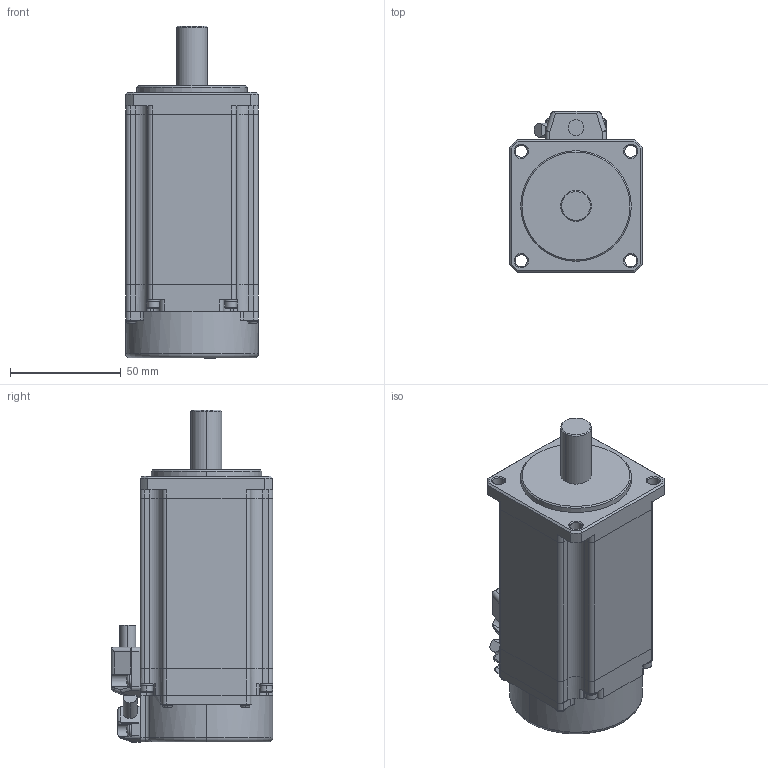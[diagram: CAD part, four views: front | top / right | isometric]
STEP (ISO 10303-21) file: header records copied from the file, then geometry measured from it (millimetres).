
FILE_DESCRIPTION (( 'STEP AP203' ), '1' );
FILE_NAME ('TS4610.STEP', '2010-08-06T14:19:53', ( 'render' ), ( '' ), 'SwSTEP 2.0', 'SolidWorks 2009', '' );
FILE_SCHEMA (( 'CONFIG_CONTROL_DESIGN' ));
Length unit declared in the file: millimetre
Products named in the file (1): TS4610
Bounding box: 60 x 73 x 150.1 mm (x, y, z)
Volume: 401764.1 mm3; surface area: 57566.4 mm2
Topology: 4 solids, 4 shells, 710 faces, 1660 edges, 965 vertices
Faces by surface type: plane 320, cylinder 245, cone 75, sphere 28, torus 22, bspline 20
Entity records: 20829 total; most frequent: CARTESIAN_POINT 4567, DIRECTION 3626, ORIENTED_EDGE 3302, EDGE_CURVE 1651, AXIS2_PLACEMENT_3D 1443, VERTEX_POINT 965, CIRCLE 752, LINE 740
